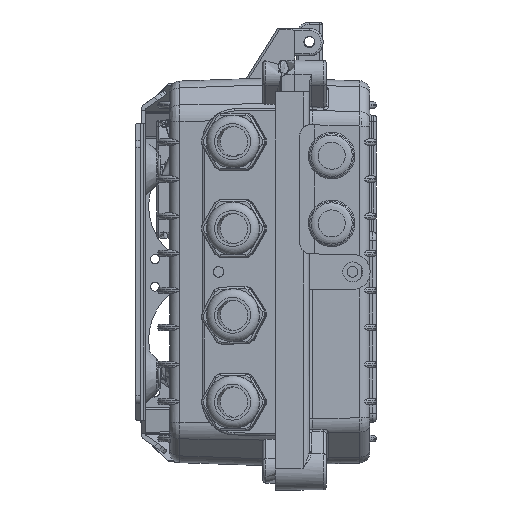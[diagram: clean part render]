
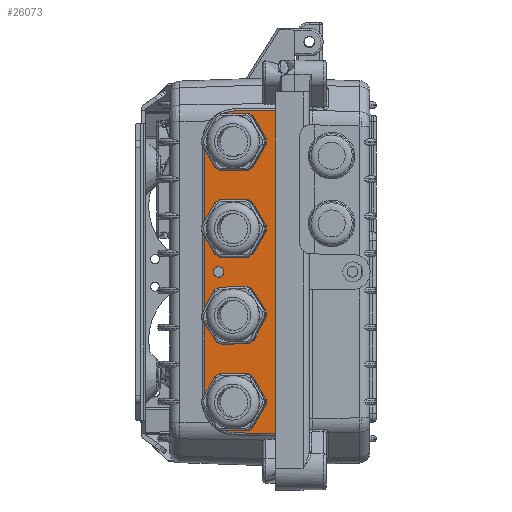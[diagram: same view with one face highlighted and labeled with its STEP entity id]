
A CAD part, left-side view. The second image highlights one B-rep face of the part: STEP entity #26073.
In plain terms, the highlighted planar face has unit normal (-0.999, 0.035, 0).
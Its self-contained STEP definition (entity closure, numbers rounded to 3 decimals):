
#1117=ELLIPSE('',#28070,14.509,14.5);
#1119=ELLIPSE('',#28075,14.509,14.5);
#1120=ELLIPSE('',#28078,2.502,2.5);
#1121=ELLIPSE('',#28079,10.306,10.3);
#1122=ELLIPSE('',#28080,10.306,10.3);
#1123=ELLIPSE('',#28081,10.306,10.3);
#1124=ELLIPSE('',#28082,10.306,10.3);
#2132=VECTOR('',#46613,1.);
#2133=VECTOR('',#46617,1.);
#2134=VECTOR('',#46621,1.);
#2135=VECTOR('',#46625,1.);
#2136=VECTOR('',#46630,1.);
#2139=VECTOR('',#46645,1.);
#2141=VECTOR('',#46655,1.);
#2142=VECTOR('',#46667,1.);
#4080=LINE('',#34639,#2132);
#4081=LINE('',#34644,#2133);
#4082=LINE('',#34649,#2134);
#4083=LINE('',#34654,#2135);
#4084=LINE('',#34677,#2136);
#4087=LINE('',#34722,#2139);
#4089=LINE('',#34778,#2141);
#4090=LINE('',#34786,#2142);
#5626=PLANE('',#28077);
#7550=VERTEX_POINT('',#34640);
#7551=VERTEX_POINT('',#34641);
#7552=VERTEX_POINT('',#34645);
#7553=VERTEX_POINT('',#34646);
#7554=VERTEX_POINT('',#34650);
#7555=VERTEX_POINT('',#34651);
#7556=VERTEX_POINT('',#34655);
#7557=VERTEX_POINT('',#34656);
#7558=VERTEX_POINT('',#34675);
#7560=VERTEX_POINT('',#34678);
#7562=VERTEX_POINT('',#34713);
#7564=VERTEX_POINT('',#34719);
#7566=VERTEX_POINT('',#34754);
#7569=VERTEX_POINT('',#34776);
#7570=VERTEX_POINT('',#34781);
#11228=EDGE_CURVE('',#7550,#7551,#4080,.T.);
#11230=EDGE_CURVE('',#7552,#7553,#4081,.T.);
#11232=EDGE_CURVE('',#7554,#7555,#4082,.T.);
#11234=EDGE_CURVE('',#7556,#7557,#4083,.T.);
#11237=EDGE_CURVE('',#7560,#7558,#4084,.T.);
#11242=EDGE_CURVE('',#7562,#7560,#1117,.T.);
#11245=EDGE_CURVE('',#7564,#7562,#4087,.T.);
#11248=EDGE_CURVE('',#7566,#7564,#1119,.T.);
#11251=EDGE_CURVE('',#7569,#7566,#4089,.T.);
#11252=EDGE_CURVE('',#7570,#7570,#1120,.T.);
#11253=EDGE_CURVE('',#7550,#7551,#1121,.T.);
#11254=EDGE_CURVE('',#7552,#7553,#1122,.T.);
#11255=EDGE_CURVE('',#7554,#7555,#1123,.T.);
#11256=EDGE_CURVE('',#7556,#7557,#1124,.T.);
#11257=EDGE_CURVE('',#7558,#7569,#4090,.T.);
#15635=ORIENTED_EDGE('',*,*,#11252,.F.);
#15636=ORIENTED_EDGE('',*,*,#11228,.F.);
#15637=ORIENTED_EDGE('',*,*,#11253,.T.);
#15638=ORIENTED_EDGE('',*,*,#11230,.F.);
#15639=ORIENTED_EDGE('',*,*,#11254,.T.);
#15640=ORIENTED_EDGE('',*,*,#11232,.F.);
#15641=ORIENTED_EDGE('',*,*,#11255,.T.);
#15642=ORIENTED_EDGE('',*,*,#11234,.F.);
#15643=ORIENTED_EDGE('',*,*,#11256,.T.);
#15644=ORIENTED_EDGE('',*,*,#11242,.T.);
#15645=ORIENTED_EDGE('',*,*,#11237,.T.);
#15646=ORIENTED_EDGE('',*,*,#11257,.T.);
#15647=ORIENTED_EDGE('',*,*,#11251,.T.);
#15648=ORIENTED_EDGE('',*,*,#11248,.T.);
#15649=ORIENTED_EDGE('',*,*,#11245,.T.);
#22309=EDGE_LOOP('',(#15635));
#22310=EDGE_LOOP('',(#15636,#15637));
#22311=EDGE_LOOP('',(#15638,#15639));
#22312=EDGE_LOOP('',(#15640,#15641));
#22313=EDGE_LOOP('',(#15642,#15643));
#22314=EDGE_LOOP('',(#15644,#15645,#15646,#15647,#15648,#15649));
#24228=FACE_BOUND('',#22309,.T.);
#24229=FACE_BOUND('',#22310,.T.);
#24230=FACE_BOUND('',#22311,.T.);
#24231=FACE_BOUND('',#22312,.T.);
#24232=FACE_BOUND('',#22313,.T.);
#24233=FACE_BOUND('',#22314,.T.);
#26073=ADVANCED_FACE('',(#24228,#24229,#24230,#24231,#24232,#24233),#5626,
 .T.);
#28070=AXIS2_PLACEMENT_3D('',#34716,#46638,#46639);
#28075=AXIS2_PLACEMENT_3D('',#34757,#46650,#46651);
#28077=AXIS2_PLACEMENT_3D('',#34779,#46656,$);
#28078=AXIS2_PLACEMENT_3D('',#34780,#46657,#46658);
#28079=AXIS2_PLACEMENT_3D('',#34782,#46659,#46660);
#28080=AXIS2_PLACEMENT_3D('',#34783,#46661,#46662);
#28081=AXIS2_PLACEMENT_3D('',#34784,#46663,#46664);
#28082=AXIS2_PLACEMENT_3D('',#34785,#46665,#46666);
#34639=CARTESIAN_POINT('',(-146.,17.727,0.));
#34640=CARTESIAN_POINT('',(-146.,17.727,60.75));
#34641=CARTESIAN_POINT('',(-146.,17.727,62.251));
#34644=CARTESIAN_POINT('',(-146.,17.727,0.));
#34645=CARTESIAN_POINT('',(-146.,17.727,19.75));
#34646=CARTESIAN_POINT('',(-146.,17.727,21.251));
#34649=CARTESIAN_POINT('',(-146.,17.727,0.));
#34650=CARTESIAN_POINT('',(-146.,17.727,-21.251));
#34651=CARTESIAN_POINT('',(-146.,17.727,-19.75));
#34654=CARTESIAN_POINT('',(-146.,17.727,0.));
#34655=CARTESIAN_POINT('',(-146.,17.727,-62.251));
#34656=CARTESIAN_POINT('',(-146.,17.727,-60.75));
#34675=CARTESIAN_POINT('',(-146.342,7.92,-76.351));
#34677=CARTESIAN_POINT('',(-146.343,7.903,-76.352));
#34678=CARTESIAN_POINT('',(-145.631,28.288,-75.996));
#34713=CARTESIAN_POINT('',(-145.134,42.535,-61.498));
#34716=CARTESIAN_POINT('',(-145.64,28.035,-61.498));
#34719=CARTESIAN_POINT('',(-145.134,42.535,61.498));
#34722=CARTESIAN_POINT('',(-145.134,42.535,0.));
#34754=CARTESIAN_POINT('',(-145.631,28.288,75.996));
#34757=CARTESIAN_POINT('',(-145.64,28.035,61.498));
#34776=CARTESIAN_POINT('',(-146.342,7.92,76.351));
#34778=CARTESIAN_POINT('',(-145.054,44.82,75.707));
#34779=CARTESIAN_POINT('',(-145.1,43.5,0.));
#34780=CARTESIAN_POINT('',(-145.365,35.9,0.));
#34781=CARTESIAN_POINT('',(-145.278,38.4,0.));
#34782=CARTESIAN_POINT('',(-145.641,28.,61.501));
#34783=CARTESIAN_POINT('',(-145.641,28.,20.501));
#34784=CARTESIAN_POINT('',(-145.641,28.,-20.501));
#34785=CARTESIAN_POINT('',(-145.641,28.,-61.501));
#34786=CARTESIAN_POINT('',(-146.342,7.92,93.));
#46613=DIRECTION('',(0.,0.,1.));
#46617=DIRECTION('',(0.,0.,1.));
#46621=DIRECTION('',(0.,0.,1.));
#46625=DIRECTION('',(0.,0.,1.));
#46630=DIRECTION('',(-0.035,-0.999,-0.017));
#46638=DIRECTION('',(-0.999,0.035,0.));
#46639=DIRECTION('',(-0.506,-14.5,0.));
#46645=DIRECTION('',(0.,0.,-1.));
#46650=DIRECTION('',(-0.999,0.035,0.));
#46651=DIRECTION('',(-0.506,-14.5,0.));
#46655=DIRECTION('',(0.035,0.999,-0.017));
#46656=DIRECTION('',(-0.999,0.035,0.));
#46657=DIRECTION('',(-0.999,0.035,0.));
#46658=DIRECTION('',(0.087,2.5,0.));
#46659=DIRECTION('',(0.999,-0.035,0.));
#46660=DIRECTION('',(-0.36,-10.3,0.));
#46661=DIRECTION('',(0.999,-0.035,0.));
#46662=DIRECTION('',(-0.36,-10.3,0.));
#46663=DIRECTION('',(0.999,-0.035,0.));
#46664=DIRECTION('',(-0.36,-10.3,0.));
#46665=DIRECTION('',(0.999,-0.035,0.));
#46666=DIRECTION('',(-0.36,-10.3,0.));
#46667=DIRECTION('',(0.,0.,1.));
